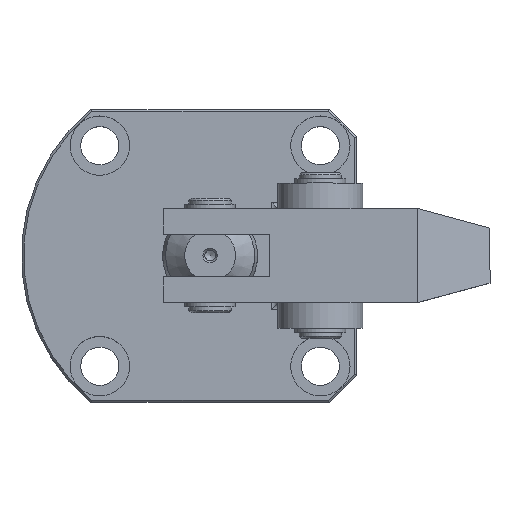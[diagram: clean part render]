
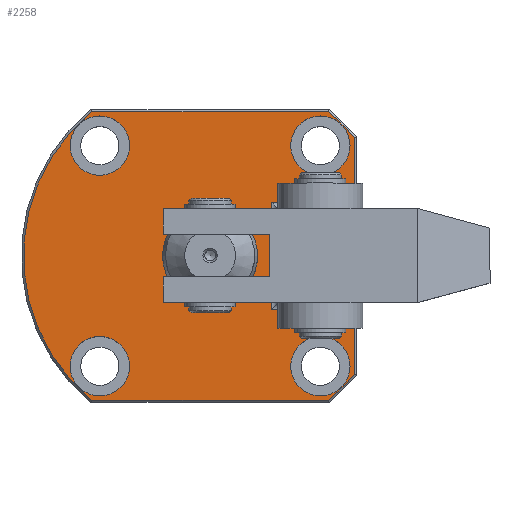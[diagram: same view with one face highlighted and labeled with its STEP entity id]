
A CAD part, top view. The second image highlights one B-rep face of the part: STEP entity #2258.
In plain terms, the highlighted planar face has unit normal (0, 0, 1).
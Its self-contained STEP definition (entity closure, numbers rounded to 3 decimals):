
#111=CIRCLE('',#2507,44.);
#112=CIRCLE('',#2508,44.);
#113=CIRCLE('',#2509,44.);
#114=CIRCLE('',#2510,11.2);
#115=CIRCLE('',#2511,7.);
#116=CIRCLE('',#2512,7.);
#117=CIRCLE('',#2513,7.);
#118=CIRCLE('',#2514,7.);
#262=PLANE('',#2506);
#339=LINE('',#3599,#462);
#348=LINE('',#3622,#471);
#349=LINE('',#3625,#472);
#350=LINE('',#3628,#473);
#351=LINE('',#3632,#474);
#352=LINE('',#3636,#475);
#353=LINE('',#3638,#476);
#462=VECTOR('',#2836,1000.);
#471=VECTOR('',#2849,1000.);
#472=VECTOR('',#2850,1000.);
#473=VECTOR('',#2853,1000.);
#474=VECTOR('',#2856,1000.);
#475=VECTOR('',#2859,1000.);
#476=VECTOR('',#2860,1000.);
#601=ORIENTED_EDGE('',*,*,#1167,.T.);
#602=ORIENTED_EDGE('',*,*,#1168,.T.);
#603=ORIENTED_EDGE('',*,*,#1157,.T.);
#604=ORIENTED_EDGE('',*,*,#1169,.T.);
#605=ORIENTED_EDGE('',*,*,#1170,.T.);
#606=ORIENTED_EDGE('',*,*,#1171,.T.);
#607=ORIENTED_EDGE('',*,*,#1172,.T.);
#608=ORIENTED_EDGE('',*,*,#1173,.T.);
#609=ORIENTED_EDGE('',*,*,#1174,.T.);
#610=ORIENTED_EDGE('',*,*,#1175,.T.);
#611=ORIENTED_EDGE('',*,*,#1176,.T.);
#612=ORIENTED_EDGE('',*,*,#1177,.F.);
#613=ORIENTED_EDGE('',*,*,#1178,.F.);
#614=ORIENTED_EDGE('',*,*,#1179,.F.);
#615=ORIENTED_EDGE('',*,*,#1180,.F.);
#1157=EDGE_CURVE('',#1441,#1442,#339,.T.);
#1167=EDGE_CURVE('',#1449,#1450,#348,.F.);
#1168=EDGE_CURVE('',#1450,#1441,#349,.F.);
#1169=EDGE_CURVE('',#1442,#1451,#111,.T.);
#1170=EDGE_CURVE('',#1451,#1452,#350,.T.);
#1171=EDGE_CURVE('',#1452,#1453,#112,.T.);
#1172=EDGE_CURVE('',#1453,#1454,#351,.T.);
#1173=EDGE_CURVE('',#1454,#1455,#113,.T.);
#1174=EDGE_CURVE('',#1455,#1456,#352,.T.);
#1175=EDGE_CURVE('',#1456,#1449,#353,.F.);
#1176=EDGE_CURVE('',#1457,#1457,#114,.T.);
#1177=EDGE_CURVE('',#1458,#1458,#115,.T.);
#1178=EDGE_CURVE('',#1459,#1459,#116,.T.);
#1179=EDGE_CURVE('',#1460,#1460,#117,.T.);
#1180=EDGE_CURVE('',#1461,#1461,#118,.T.);
#1441=VERTEX_POINT('',#3600);
#1442=VERTEX_POINT('',#3601);
#1449=VERTEX_POINT('',#3623);
#1450=VERTEX_POINT('',#3624);
#1451=VERTEX_POINT('',#3627);
#1452=VERTEX_POINT('',#3629);
#1453=VERTEX_POINT('',#3631);
#1454=VERTEX_POINT('',#3633);
#1455=VERTEX_POINT('',#3635);
#1456=VERTEX_POINT('',#3637);
#1457=VERTEX_POINT('',#3640);
#1458=VERTEX_POINT('',#3642);
#1459=VERTEX_POINT('',#3644);
#1460=VERTEX_POINT('',#3646);
#1461=VERTEX_POINT('',#3648);
#1663=EDGE_LOOP('',(#601,#602,#603,#604,#605,#606,#607,#608,#609,#610));
#1664=EDGE_LOOP('',(#611));
#1665=EDGE_LOOP('',(#612));
#1666=EDGE_LOOP('',(#613));
#1667=EDGE_LOOP('',(#614));
#1668=EDGE_LOOP('',(#615));
#1928=FACE_BOUND('',#1663,.T.);
#1929=FACE_BOUND('',#1664,.T.);
#1930=FACE_BOUND('',#1665,.T.);
#1931=FACE_BOUND('',#1666,.T.);
#1932=FACE_BOUND('',#1667,.T.);
#1933=FACE_BOUND('',#1668,.T.);
#2258=ADVANCED_FACE('',(#1928,#1929,#1930,#1931,#1932,#1933),#262,.T.);
#2506=AXIS2_PLACEMENT_3D('',#3621,#2847,#2848);
#2507=AXIS2_PLACEMENT_3D('',#3626,#2851,#2852);
#2508=AXIS2_PLACEMENT_3D('',#3630,#2854,#2855);
#2509=AXIS2_PLACEMENT_3D('',#3634,#2857,#2858);
#2510=AXIS2_PLACEMENT_3D('',#3639,#2861,#2862);
#2511=AXIS2_PLACEMENT_3D('',#3641,#2863,#2864);
#2512=AXIS2_PLACEMENT_3D('',#3643,#2865,#2866);
#2513=AXIS2_PLACEMENT_3D('',#3645,#2867,#2868);
#2514=AXIS2_PLACEMENT_3D('',#3647,#2869,#2870);
#2836=DIRECTION('',(0.,1.,0.));
#2847=DIRECTION('',(0.,0.,1.));
#2848=DIRECTION('',(0.,-1.,0.));
#2849=DIRECTION('',(0.,-1.,0.));
#2850=DIRECTION('',(-1.,0.,0.));
#2851=DIRECTION('',(0.,0.,1.));
#2852=DIRECTION('',(0.,-1.,0.));
#2853=DIRECTION('',(-1.,0.,0.));
#2854=DIRECTION('',(0.,0.,1.));
#2855=DIRECTION('',(0.,-1.,0.));
#2856=DIRECTION('',(1.,0.,0.));
#2857=DIRECTION('',(0.,0.,1.));
#2858=DIRECTION('',(0.,-1.,0.));
#2859=DIRECTION('',(0.,1.,0.));
#2860=DIRECTION('',(1.,0.,0.));
#2861=DIRECTION('',(0.,0.,-1.));
#2862=DIRECTION('',(0.,-1.,0.));
#2863=DIRECTION('',(0.,0.,1.));
#2864=DIRECTION('',(1.,0.,0.));
#2865=DIRECTION('',(0.,0.,1.));
#2866=DIRECTION('',(1.,0.,0.));
#2867=DIRECTION('',(0.,0.,1.));
#2868=DIRECTION('',(1.,0.,0.));
#2869=DIRECTION('',(0.,0.,1.));
#2870=DIRECTION('',(1.,0.,0.));
#3599=CARTESIAN_POINT('',(23.25,36.5,17.9));
#3600=CARTESIAN_POINT('',(23.25,49.1,17.9));
#3601=CARTESIAN_POINT('',(23.25,64.428,17.9));
#3621=CARTESIAN_POINT('',(-10.75,36.5,17.9));
#3622=CARTESIAN_POINT('',(3.75,36.5,17.9));
#3623=CARTESIAN_POINT('',(3.75,23.9,17.9));
#3624=CARTESIAN_POINT('',(3.75,49.1,17.9));
#3625=CARTESIAN_POINT('',(-10.75,49.1,17.9));
#3626=CARTESIAN_POINT('',(-10.75,36.5,17.9));
#3627=CARTESIAN_POINT('',(17.178,70.5,17.9));
#3628=CARTESIAN_POINT('',(-10.75,70.5,17.9));
#3629=CARTESIAN_POINT('',(-38.678,70.5,17.9));
#3630=CARTESIAN_POINT('',(-10.75,36.5,17.9));
#3631=CARTESIAN_POINT('',(-38.678,2.5,17.9));
#3632=CARTESIAN_POINT('',(-10.75,2.5,17.9));
#3633=CARTESIAN_POINT('',(17.178,2.5,17.9));
#3634=CARTESIAN_POINT('',(-10.75,36.5,17.9));
#3635=CARTESIAN_POINT('',(23.25,8.572,17.9));
#3636=CARTESIAN_POINT('',(23.25,36.5,17.9));
#3637=CARTESIAN_POINT('',(23.25,23.9,17.9));
#3638=CARTESIAN_POINT('',(5.25,23.9,17.9));
#3639=CARTESIAN_POINT('',(-10.75,36.5,17.9));
#3640=CARTESIAN_POINT('',(-10.75,25.3,17.9));
#3641=CARTESIAN_POINT('',(15.25,10.5,17.9));
#3642=CARTESIAN_POINT('',(22.25,10.5,17.9));
#3643=CARTESIAN_POINT('',(-36.75,10.5,17.9));
#3644=CARTESIAN_POINT('',(-29.75,10.5,17.9));
#3645=CARTESIAN_POINT('',(15.25,62.5,17.9));
#3646=CARTESIAN_POINT('',(22.25,62.5,17.9));
#3647=CARTESIAN_POINT('',(-36.75,62.5,17.9));
#3648=CARTESIAN_POINT('',(-29.75,62.5,17.9));
